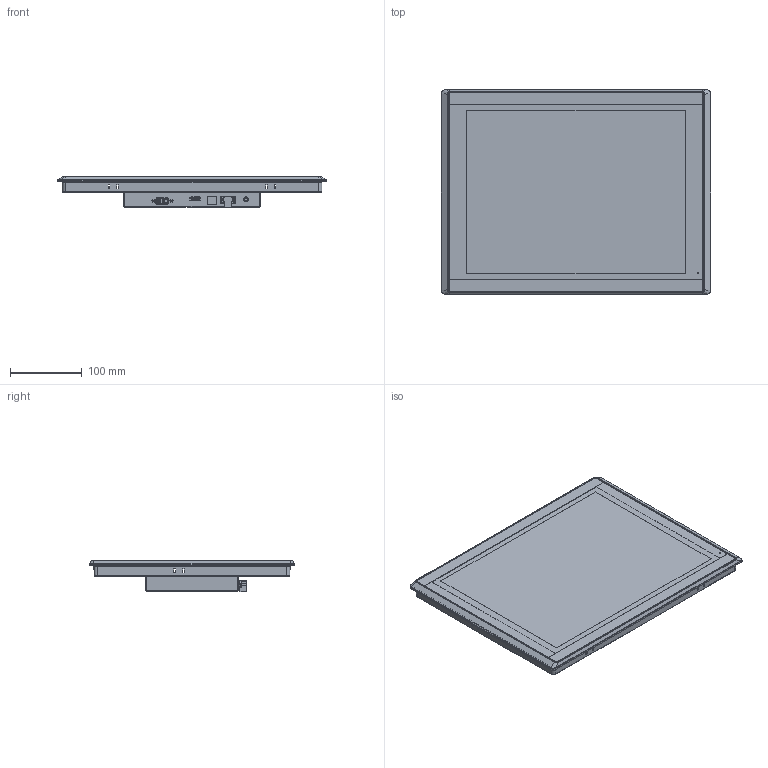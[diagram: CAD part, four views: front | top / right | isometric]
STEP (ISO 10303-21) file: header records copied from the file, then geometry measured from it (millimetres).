
FILE_DESCRIPTION((''),'2;1');
FILE_NAME('FPM-1500D-20241226','2025-08-01T19:29:06',('anthony'),(''),'CREO PARAMETRIC BY PTC INC, 2024063','CREO PARAMETRIC BY PTC INC, 2024063','');
FILE_SCHEMA(('CONFIG_CONTROL_DESIGN','SHAPE_APPEARANCE_LAYERS_GROUPS'));
Products named in the file (1): FPM-1500D-20241226
Bounding box: 376.13 x 285.33 x 44.38 mm (x, y, z)
Volume: 228943.9 mm3; surface area: 760171.5 mm2
Topology: 6 solids, 9 shells, 2507 faces, 6871 edges, 4457 vertices
Faces by surface type: plane 1731, cylinder 558, cone 70, torus 60, extrusion 48, bspline 36, sphere 4
Entity records: 86576 total; most frequent: CARTESIAN_POINT 17871, ORIENTED_EDGE 13597, DIRECTION 12320, EDGE_CURVE 6867, VECTOR 5366, LINE 5318, VERTEX_POINT 4457, AXIS2_PLACEMENT_3D 3477
